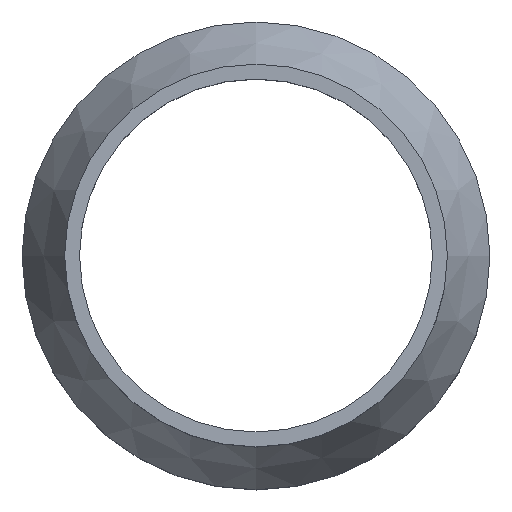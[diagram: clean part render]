
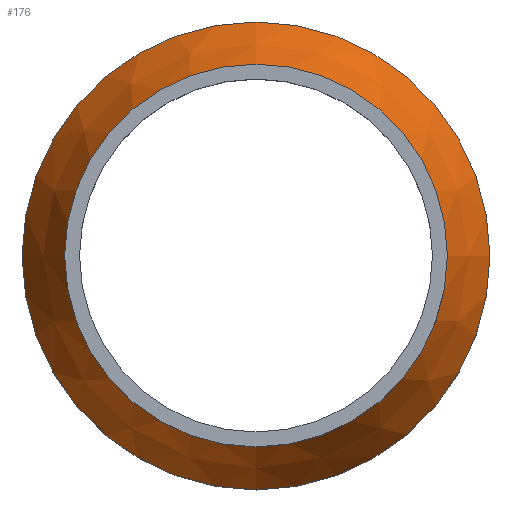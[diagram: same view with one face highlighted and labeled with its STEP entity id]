
A CAD part, top view. The second image highlights one B-rep face of the part: STEP entity #176.
In plain terms, the highlighted conical face has half-angle 26.565 degrees and reference radius 55 mm.
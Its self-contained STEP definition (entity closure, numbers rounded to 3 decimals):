
#29=FACE_BOUND($,#67,.T.);
#45=FACE_OUTER_BOUND($,#66,.T.);
#66=EDGE_LOOP($,(#136));
#67=EDGE_LOOP($,(#137));
#83=CIRCLE($,#197,55.);
#88=CIRCLE($,#206,45.);
#97=VERTEX_POINT($,#291);
#102=VERTEX_POINT($,#305);
#111=EDGE_CURVE($,#97,#97,#83,.T.);
#116=EDGE_CURVE($,#102,#102,#88,.T.);
#136=ORIENTED_EDGE($,*,*,#111,.F.);
#137=ORIENTED_EDGE($,*,*,#116,.F.);
#151=CONICAL_SURFACE($,#205,55.,26.565);
#176=ADVANCED_FACE($,(#45,#29),#151,.T.);
#197=AXIS2_PLACEMENT_3D($,#292,#240,#241);
#205=AXIS2_PLACEMENT_3D($,#304,#256,#257);
#206=AXIS2_PLACEMENT_3D($,#306,#258,#259);
#240=DIRECTION('center_axis',(0.,0.,-1.));
#241=DIRECTION('ref_axis',(-1.,0.,0.));
#256=DIRECTION('center_axis',(0.,0.,-1.));
#257=DIRECTION('ref_axis',(1.,0.,0.));
#258=DIRECTION('center_axis',(0.,0.,1.));
#259=DIRECTION('ref_axis',(-1.,0.,0.));
#291=CARTESIAN_POINT('',(55.,0.,30.));
#292=CARTESIAN_POINT('Origin',(0.,0.,30.));
#304=CARTESIAN_POINT('Origin',(0.,0.,30.));
#305=CARTESIAN_POINT('',(45.,0.,50.));
#306=CARTESIAN_POINT('Origin',(0.,0.,50.));
